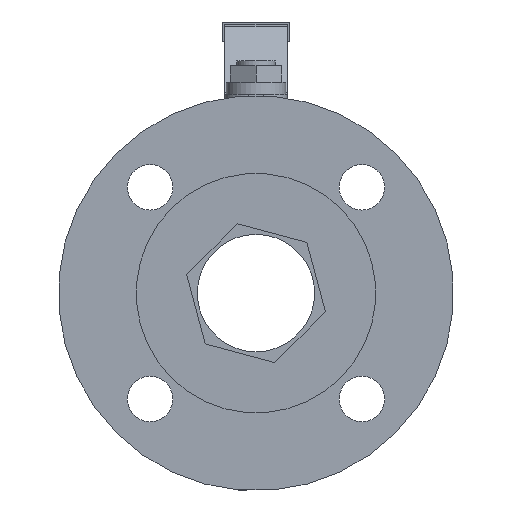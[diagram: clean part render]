
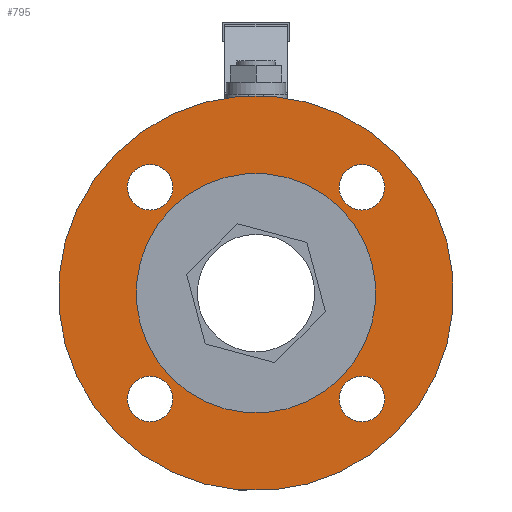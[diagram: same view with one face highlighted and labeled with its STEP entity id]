
A CAD part, left-side view. The second image highlights one B-rep face of the part: STEP entity #795.
In plain terms, the highlighted planar face has unit normal (-1, 0, 0).
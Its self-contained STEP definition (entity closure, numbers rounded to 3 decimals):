
#795=ADVANCED_FACE('',(#22567,#22569,#22571,#22573,#22575,#22577),#22579,.F.);
#22567=FACE_BOUND('',#22568,.T.);
#22568=EDGE_LOOP('',(#39548));
#22569=FACE_BOUND('',#22570,.T.);
#22570=EDGE_LOOP('',(#39549));
#22571=FACE_BOUND('',#22572,.T.);
#22572=EDGE_LOOP('',(#39550));
#22573=FACE_BOUND('',#22574,.T.);
#22574=EDGE_LOOP('',(#39551));
#22575=FACE_BOUND('',#22576,.T.);
#22576=EDGE_LOOP('',(#39552));
#22577=FACE_BOUND('',#22578,.T.);
#22578=EDGE_LOOP('',(#39553,#39554));
#22579=PLANE('',#22580);
#22580=AXIS2_PLACEMENT_3D('',#22581,#22582,#22583);
#22581=CARTESIAN_POINT('',(8409.846,2679.984,-174.626));
#22582=DIRECTION('',(1.,0.,0.));
#22583=DIRECTION('',(0.,0.,-1.));
#39548=ORIENTED_EDGE('',*,*,#53570,.T.);
#39549=ORIENTED_EDGE('',*,*,#53433,.T.);
#39550=ORIENTED_EDGE('',*,*,#53437,.T.);
#39551=ORIENTED_EDGE('',*,*,#53441,.T.);
#39552=ORIENTED_EDGE('',*,*,#53429,.T.);
#39553=ORIENTED_EDGE('',*,*,#53571,.F.);
#39554=ORIENTED_EDGE('',*,*,#53572,.F.);
#53429=EDGE_CURVE('',#60497,#60497,#60498,.T.);
#53433=EDGE_CURVE('',#60505,#60505,#60506,.T.);
#53437=EDGE_CURVE('',#60513,#60513,#60514,.T.);
#53441=EDGE_CURVE('',#60521,#60521,#60522,.T.);
#53570=EDGE_CURVE('',#60742,#60742,#60743,.T.);
#53571=EDGE_CURVE('',#60744,#60745,#60746,.T.);
#53572=EDGE_CURVE('',#60745,#60744,#60747,.T.);
#60497=VERTEX_POINT('',#72294);
#60498=CIRCLE('',#72295,9.5);
#60505=VERTEX_POINT('',#72314);
#60506=CIRCLE('',#72315,9.5);
#60513=VERTEX_POINT('',#72334);
#60514=CIRCLE('',#72335,9.5);
#60521=VERTEX_POINT('',#72354);
#60522=CIRCLE('',#72355,9.5);
#60742=VERTEX_POINT('',#73711);
#60743=CIRCLE('',#73712,82.5);
#60744=VERTEX_POINT('',#73716);
#60745=VERTEX_POINT('',#73717);
#60746=CIRCLE('',#73718,50.);
#60747=CIRCLE('',#73722,50.);
#72294=CARTESIAN_POINT('',(8409.846,2778.58,-173.919));
#72295=AXIS2_PLACEMENT_3D('',#72296,#72297,#72298);
#72296=CARTESIAN_POINT('',(8409.846,2769.08,-173.919));
#72297=DIRECTION('',(1.,0.,0.));
#72298=DIRECTION('',(0.,1.,0.));
#72314=CARTESIAN_POINT('',(8409.846,2690.191,-85.531));
#72315=AXIS2_PLACEMENT_3D('',#72316,#72317,#72318);
#72316=CARTESIAN_POINT('',(8409.846,2680.691,-85.531));
#72317=DIRECTION('',(1.,0.,0.));
#72318=DIRECTION('',(0.,1.,0.));
#72334=CARTESIAN_POINT('',(8409.846,2690.191,-173.919));
#72335=AXIS2_PLACEMENT_3D('',#72336,#72337,#72338);
#72336=CARTESIAN_POINT('',(8409.846,2680.691,-173.919));
#72337=DIRECTION('',(1.,0.,0.));
#72338=DIRECTION('',(0.,1.,0.));
#72354=CARTESIAN_POINT('',(8409.846,2778.58,-85.531));
#72355=AXIS2_PLACEMENT_3D('',#72356,#72357,#72358);
#72356=CARTESIAN_POINT('',(8409.846,2769.08,-85.531));
#72357=DIRECTION('',(1.,0.,0.));
#72358=DIRECTION('',(0.,1.,0.));
#73711=CARTESIAN_POINT('',(8409.846,2666.549,-71.388));
#73712=AXIS2_PLACEMENT_3D('',#73713,#73714,#73715);
#73713=CARTESIAN_POINT('',(8409.846,2724.886,-129.725));
#73714=DIRECTION('',(-1.,0.,0.));
#73715=DIRECTION('',(0.,-0.707,0.707));
#73716=CARTESIAN_POINT('',(8409.846,2760.241,-165.08));
#73717=CARTESIAN_POINT('',(8409.846,2689.53,-94.369));
#73718=AXIS2_PLACEMENT_3D('',#73719,#73720,#73721);
#73719=CARTESIAN_POINT('',(8409.846,2724.886,-129.725));
#73720=DIRECTION('',(-1.,0.,0.));
#73721=DIRECTION('',(0.,0.707,-0.707));
#73722=AXIS2_PLACEMENT_3D('',#73723,#73724,#73725);
#73723=CARTESIAN_POINT('',(8409.846,2724.886,-129.725));
#73724=DIRECTION('',(-1.,0.,0.));
#73725=DIRECTION('',(0.,-0.707,0.707));
